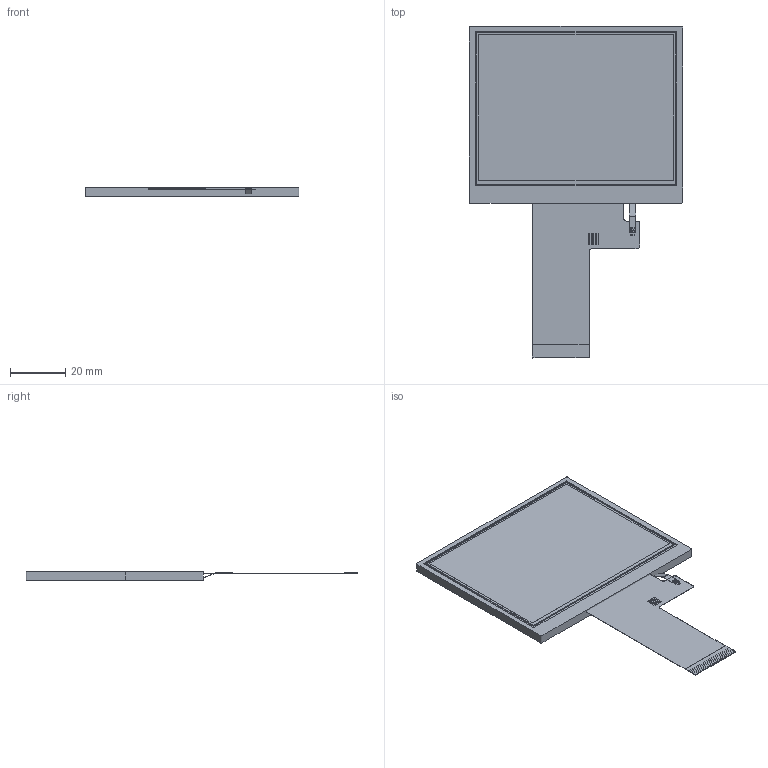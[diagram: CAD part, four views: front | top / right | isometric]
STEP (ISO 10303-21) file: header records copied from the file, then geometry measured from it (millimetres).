
FILE_DESCRIPTION (( 'STEP AP203' ), '1' );
FILE_NAME ('NHD-3.5-640480EF-MSXP_Rev1A.STEP', '2023-06-19T20:22:55', ( '' ), ( '' ), 'SwSTEP 2.0', 'SolidWorks 2019', '' );
FILE_SCHEMA (( 'CONFIG_CONTROL_DESIGN' ));
Length unit declared in the file: millimetre
Products named in the file (1): NHD-3.5-640480EF-MSXP_Rev1A
Bounding box: 76.9 x 119.8 x 3.2 mm (x, y, z)
Volume: 17215.1 mm3; surface area: 37662 mm2
Topology: 57 solids, 57 shells, 353 faces, 714 edges, 476 vertices
Faces by surface type: plane 341, cylinder 8, bspline 4
Entity records: 9229 total; most frequent: CARTESIAN_POINT 1824, ORIENTED_EDGE 1428, DIRECTION 1422, EDGE_CURVE 714, LINE 690, VECTOR 690, VERTEX_POINT 476, AXIS2_PLACEMENT_3D 366
